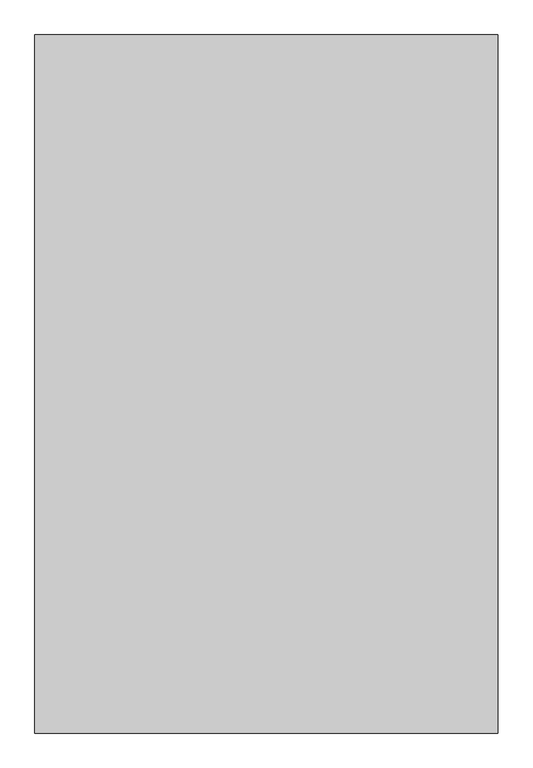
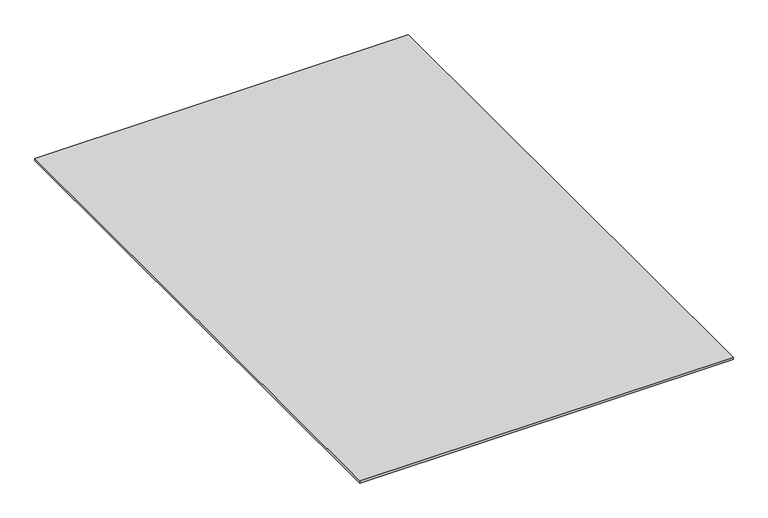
"""IFC4 building model written with IfcOpenShell, lengths in millimetres: proxy geometry, Фиброцементная плита LATONIT окрашенная : 10 мм."""

from ifc_helpers import new_model, si_unit, frame, origin, place, context, project, spatial, polyline, outline, extrude, source, transform, mapped, element, save


def generic_models_4ce7e5f8(model_context):
    return source(origin(), model_context, "Body", "SweptSolid", [
        extrude(outline(polyline([(1500.0, 2260.0), (1500.0, 0.0), (0.0, 0.0), (0.0, 2260.0), (1500.0, 2260.0)])), frame((0.0, 0.0, 240.0), z_axis=(0.0, 0.0, 1.0), x_axis=(1.0, 0.0, 0.0)), (0.0, 0.0, 1.0), 10.0),
    ])


if __name__ == "__main__":
    model = new_model("IFC4")
    model_context = context("Model", 3, world=origin())
    ifc_project = project(units=[si_unit("LENGTHUNIT", "METRE", prefix="MILLI")], contexts=[model_context])
    site = spatial("IfcSite", under=ifc_project)
    building = spatial("IfcBuilding", under=site)
    placement = place(None, origin())
    generic_models_shape = generic_models_4ce7e5f8(model_context)
    element("IfcBuildingElementProxy", 1, Name="Фиброцементная плита LATONIT окрашенная : 10 мм", ObjectType="Фиброцементная плита LATONIT окрашенная : 10 мм", at=placement, inside=building, context=model_context, shape_type="MappedRepresentation", body=[
        mapped(generic_models_shape, transform((0.0, 0.0, 0.0), x_axis=(1.0, 0.0, 0.0), y_axis=(0.0, 1.0, 0.0), z_axis=(0.0, 0.0, 1.0))),
    ])
    save(model, "model.ifc")
